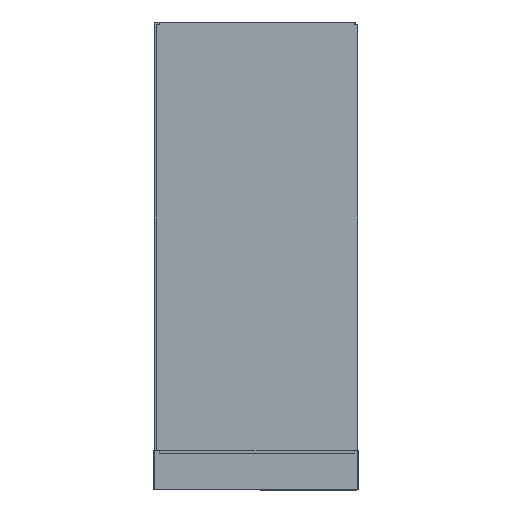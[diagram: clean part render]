
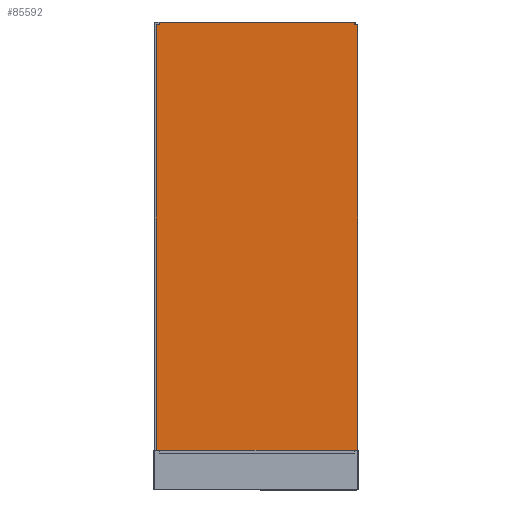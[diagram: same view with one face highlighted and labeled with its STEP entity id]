
A CAD part, left-side view. The second image highlights one B-rep face of the part: STEP entity #85592.
In plain terms, the highlighted free-form (B-spline) face has degree [1, 1] with [2, 2] control points.
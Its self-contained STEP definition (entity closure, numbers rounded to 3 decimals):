
#39294=CARTESIAN_POINT('',(3.567,-885.978,2050.06));
#39295=VERTEX_POINT('',#39294);
#39302=CARTESIAN_POINT('',(3.567,-899.978,2050.06));
#39303=VERTEX_POINT('',#39302);
#39304=CARTESIAN_POINT('',(3.567,-885.978,2050.06));
#39305=DIRECTION('',(0.,-1.,0.0));
#39306=VECTOR('',#39305,14.);
#39307=LINE('',#39304,#39306);
#39308=EDGE_CURVE('',#39295,#39303,#39307,.T.);
#39397=CARTESIAN_POINT('',(3.563,-25.974,2050.06));
#39398=VERTEX_POINT('',#39397);
#39405=CARTESIAN_POINT('',(3.563,-25.974,2063.06));
#39406=VERTEX_POINT('',#39405);
#39407=CARTESIAN_POINT('',(3.563,-25.974,2050.06));
#39408=DIRECTION('',(0.0,0.0,1.0));
#39409=VECTOR('',#39408,13.0);
#39410=LINE('',#39407,#39409);
#39411=EDGE_CURVE('',#39398,#39406,#39410,.T.);
#39427=CARTESIAN_POINT('',(3.567,-885.978,2063.06));
#39428=VERTEX_POINT('',#39427);
#39435=CARTESIAN_POINT('',(3.567,-885.978,2063.06));
#39436=DIRECTION('',(0.0,0.0,-1.0));
#39437=VECTOR('',#39436,13.0);
#39438=LINE('',#39435,#39437);
#39439=EDGE_CURVE('',#39428,#39295,#39438,.T.);
#39453=CARTESIAN_POINT('',(3.563,-11.974,2050.06));
#39454=VERTEX_POINT('',#39453);
#39461=CARTESIAN_POINT('',(3.563,-11.974,2050.06));
#39462=DIRECTION('',(0.,-1.,0.0));
#39463=VECTOR('',#39462,14.);
#39464=LINE('',#39461,#39463);
#39465=EDGE_CURVE('',#39454,#39398,#39464,.T.);
#85343=CARTESIAN_POINT('',(3.567,-885.978,2063.06));
#85344=DIRECTION('',(0.,1.,0.0));
#85345=VECTOR('',#85344,860.004);
#85346=LINE('',#85343,#85345);
#85347=EDGE_CURVE('',#39428,#39406,#85346,.T.);
#85408=CARTESIAN_POINT('',(3.563,-25.974,163.06));
#85409=VERTEX_POINT('',#85408);
#85410=CARTESIAN_POINT('',(3.567,-885.977,163.06));
#85411=VERTEX_POINT('',#85410);
#85412=CARTESIAN_POINT('',(3.563,-25.974,163.06));
#85413=DIRECTION('',(0.,-1.,0.0));
#85414=VECTOR('',#85413,860.004);
#85415=LINE('',#85412,#85414);
#85416=EDGE_CURVE('',#85409,#85411,#85415,.T.);
#85449=CARTESIAN_POINT('',(3.563,-11.977,176.06));
#85450=VERTEX_POINT('',#85449);
#85457=CARTESIAN_POINT('',(3.563,-11.977,2050.06));
#85458=DIRECTION('',(0.0,0.0,-1.0));
#85459=VECTOR('',#85458,1874.);
#85460=LINE('',#85457,#85459);
#85461=EDGE_CURVE('',#39454,#85450,#85460,.T.);
#85473=CARTESIAN_POINT('',(3.563,-25.974,176.06));
#85474=VERTEX_POINT('',#85473);
#85475=CARTESIAN_POINT('',(3.563,-25.974,163.06));
#85476=DIRECTION('',(0.0,0.0,1.0));
#85477=VECTOR('',#85476,13.0);
#85478=LINE('',#85475,#85477);
#85479=EDGE_CURVE('',#85409,#85474,#85478,.T.);
#85498=CARTESIAN_POINT('',(3.563,-25.974,176.06));
#85499=DIRECTION('',(0.,1.,0.0));
#85500=VECTOR('',#85499,14.);
#85501=LINE('',#85498,#85500);
#85502=EDGE_CURVE('',#85474,#85450,#85501,.T.);
#85513=CARTESIAN_POINT('',(3.567,-899.977,176.06));
#85514=VERTEX_POINT('',#85513);
#85523=CARTESIAN_POINT('',(3.567,-899.977,176.06));
#85524=DIRECTION('',(0.0,0.0,1.0));
#85525=VECTOR('',#85524,1874.);
#85526=LINE('',#85523,#85525);
#85527=EDGE_CURVE('',#85514,#39303,#85526,.T.);
#85539=CARTESIAN_POINT('',(3.567,-885.977,176.06));
#85540=VERTEX_POINT('',#85539);
#85547=CARTESIAN_POINT('',(3.567,-885.977,163.06));
#85548=DIRECTION('',(0.0,0.0,1.0));
#85549=VECTOR('',#85548,13.);
#85550=LINE('',#85547,#85549);
#85551=EDGE_CURVE('',#85411,#85540,#85550,.T.);
#85563=CARTESIAN_POINT('',(3.567,-885.977,176.06));
#85564=DIRECTION('',(0.,-1.,0.));
#85565=VECTOR('',#85564,14.);
#85566=LINE('',#85563,#85565);
#85567=EDGE_CURVE('',#85540,#85514,#85566,.T.);
#85573=CARTESIAN_POINT('',(3.563,-11.565,2063.472));
#85574=CARTESIAN_POINT('',(3.563,-11.565,162.647));
#85575=CARTESIAN_POINT('',(3.567,-900.39,2063.472));
#85576=CARTESIAN_POINT('',(3.567,-900.39,162.647));
#85577=B_SPLINE_SURFACE_WITH_KNOTS('',1,1,((#85573,#85575),(#85574,#85576)),.UNSPECIFIED.,.F.,.F.,.U.,(2,2),(2,2),(3.663,1904.488),(13.058,901.884),.UNSPECIFIED.);
#85578=ORIENTED_EDGE('',*,*,#85416,.T.);
#85579=ORIENTED_EDGE('',*,*,#85551,.T.);
#85580=ORIENTED_EDGE('',*,*,#85567,.T.);
#85581=ORIENTED_EDGE('',*,*,#85527,.T.);
#85582=ORIENTED_EDGE('',*,*,#39308,.F.);
#85583=ORIENTED_EDGE('',*,*,#39439,.F.);
#85584=ORIENTED_EDGE('',*,*,#85347,.T.);
#85585=ORIENTED_EDGE('',*,*,#39411,.F.);
#85586=ORIENTED_EDGE('',*,*,#39465,.F.);
#85587=ORIENTED_EDGE('',*,*,#85461,.T.);
#85588=ORIENTED_EDGE('',*,*,#85502,.F.);
#85589=ORIENTED_EDGE('',*,*,#85479,.F.);
#85590=EDGE_LOOP('',(#85578,#85579,#85580,#85581,#85582,#85583,#85584,#85585,#85586,#85587,#85588,#85589));
#85591=FACE_OUTER_BOUND('',#85590,.T.);
#85592=ADVANCED_FACE('',(#85591),#85577,.T.);
